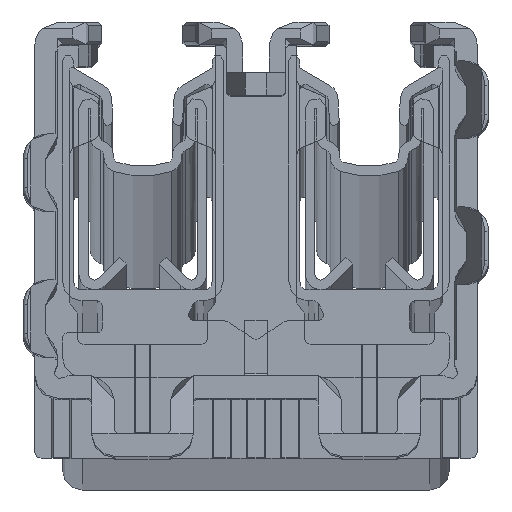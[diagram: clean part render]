
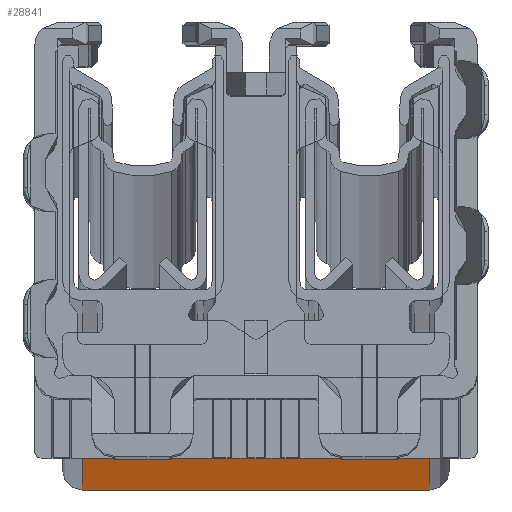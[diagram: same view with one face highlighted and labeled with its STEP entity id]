
A CAD part, top view. The second image highlights one B-rep face of the part: STEP entity #28841.
In plain terms, the highlighted planar face has unit normal (0, -1, 0).
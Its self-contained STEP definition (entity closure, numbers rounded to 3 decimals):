
#2731 = EDGE_LOOP ( 'NONE', ( #23556, #24323, #24406, #23604, #23486, #23039, #23905, #23903, #23488, #24549, #23836, #23480 ) ) ;
#3558 = VECTOR ( 'NONE', #17658, 1000. ) ;
#3579 = VECTOR ( 'NONE', #17662, 1000. ) ;
#3582 = LINE ( 'NONE', #17666, #4013 ) ;
#3586 = LINE ( 'NONE', #17665, #4106 ) ;
#3594 = LINE ( 'NONE', #17663, #3819 ) ;
#3598 = VECTOR ( 'NONE', #17668, 1000. ) ;
#3602 = VECTOR ( 'NONE', #17660, 1000. ) ;
#3610 = LINE ( 'NONE', #17659, #3598 ) ;
#3639 = LINE ( 'NONE', #17677, #4006 ) ;
#3766 = LINE ( 'NONE', #17672, #4015 ) ;
#3819 = VECTOR ( 'NONE', #17664, 1000. ) ;
#3834 = LINE ( 'NONE', #17652, #3558 ) ;
#3844 = LINE ( 'NONE', #17657, #3579 ) ;
#3863 = LINE ( 'NONE', #17655, #3602 ) ;
#4004 = LINE ( 'NONE', #17669, #4019 ) ;
#4006 = VECTOR ( 'NONE', #17678, 1000. ) ;
#4008 = VECTOR ( 'NONE', #17671, 1000. ) ;
#4013 = VECTOR ( 'NONE', #17674, 1000. ) ;
#4015 = VECTOR ( 'NONE', #17673, 1000. ) ;
#4019 = VECTOR ( 'NONE', #17670, 1000. ) ;
#4045 = LINE ( 'NONE', #17661, #4008 ) ;
#4106 = VECTOR ( 'NONE', #17667, 1000. ) ;
#4125 = VECTOR ( 'NONE', #17760, 1000. ) ;
#4128 = LINE ( 'NONE', #17759, #4125 ) ;
#7863 = EDGE_CURVE ( 'NONE', #23222, #23103, #3834, .T. ) ;
#7864 = EDGE_CURVE ( 'NONE', #23914, #23103, #3863, .T. ) ;
#7865 = EDGE_CURVE ( 'NONE', #23914, #23911, #3844, .T. ) ;
#7866 = EDGE_CURVE ( 'NONE', #23911, #23220, #3594, .T. ) ;
#7867 = EDGE_CURVE ( 'NONE', #23220, #23916, #3586, .T. ) ;
#7868 = EDGE_CURVE ( 'NONE', #23218, #23916, #3610, .T. ) ;
#7869 = EDGE_CURVE ( 'NONE', #23218, #23948, #4004, .T. ) ;
#7870 = EDGE_CURVE ( 'NONE', #23948, #23946, #4045, .T. ) ;
#7871 = EDGE_CURVE ( 'NONE', #23946, #24431, #3766, .T. ) ;
#7872 = EDGE_CURVE ( 'NONE', #23942, #24431, #3582, .T. ) ;
#7876 = EDGE_CURVE ( 'NONE', #23953, #23942, #3639, .T. ) ;
#7909 = EDGE_CURVE ( 'NONE', #23953, #23222, #4128, .T. ) ;
#15179 = AXIS2_PLACEMENT_3D ( 'NONE', #24958, #24960, #24962 ) ;
#16835 = FACE_OUTER_BOUND ( 'NONE', #2731, .T. ) ;
#17652 = CARTESIAN_POINT ( 'NONE',  ( -10.725, 0., -2000. ) ) ;
#17655 = CARTESIAN_POINT ( 'NONE',  ( -11.704, 0., 1955.7 ) ) ;
#17657 = CARTESIAN_POINT ( 'NONE',  ( -10.25, 0., 1955.7 ) ) ;
#17658 = DIRECTION ( 'NONE',  ( 0., 0., 1. ) ) ;
#17659 = CARTESIAN_POINT ( 'NONE',  ( 5.25, 0., 1955.7 ) ) ;
#17660 = DIRECTION ( 'NONE',  ( -1., 0., 0. ) ) ;
#17661 = CARTESIAN_POINT ( 'NONE',  ( 0., 0., 1992.5 ) ) ;
#17662 = DIRECTION ( 'NONE',  ( 0., 0., 1. ) ) ;
#17663 = CARTESIAN_POINT ( 'NONE',  ( 0., 0., 1992.5 ) ) ;
#17664 = DIRECTION ( 'NONE',  ( 1., 0., 0. ) ) ;
#17665 = CARTESIAN_POINT ( 'NONE',  ( -3.75, 0., 1955.7 ) ) ;
#17666 = CARTESIAN_POINT ( 'NONE',  ( 11.704, 0., 1955.7 ) ) ;
#17667 = DIRECTION ( 'NONE',  ( 0., 0., -1. ) ) ;
#17668 = DIRECTION ( 'NONE',  ( -1., 0., 0. ) ) ;
#17669 = CARTESIAN_POINT ( 'NONE',  ( 3.75, 0., 1955.7 ) ) ;
#17670 = DIRECTION ( 'NONE',  ( 0., 0., 1. ) ) ;
#17671 = DIRECTION ( 'NONE',  ( 1., 0., 0. ) ) ;
#17672 = CARTESIAN_POINT ( 'NONE',  ( 10.25, 0., 1955.7 ) ) ;
#17673 = DIRECTION ( 'NONE',  ( 0., 0., -1. ) ) ;
#17674 = DIRECTION ( 'NONE',  ( -1., 0., 0. ) ) ;
#17677 = CARTESIAN_POINT ( 'NONE',  ( 10.725, 0., -2000. ) ) ;
#17678 = DIRECTION ( 'NONE',  ( 0., 0., 1. ) ) ;
#17759 = CARTESIAN_POINT ( 'NONE',  ( 0., 0., -1992.5 ) ) ;
#17760 = DIRECTION ( 'NONE',  ( -1., 0., 0. ) ) ;
#23039 = ORIENTED_EDGE ( 'NONE', *, *, #7867, .F. ) ;
#23103 = VERTEX_POINT ( 'NONE', #23611 ) ;
#23218 = VERTEX_POINT ( 'NONE', #23631 ) ;
#23220 = VERTEX_POINT ( 'NONE', #23633 ) ;
#23222 = VERTEX_POINT ( 'NONE', #23627 ) ;
#23480 = ORIENTED_EDGE ( 'NONE', *, *, #7876, .T. ) ;
#23486 = ORIENTED_EDGE ( 'NONE', *, *, #7868, .T. ) ;
#23488 = ORIENTED_EDGE ( 'NONE', *, *, #7864, .T. ) ;
#23556 = ORIENTED_EDGE ( 'NONE', *, *, #7872, .T. ) ;
#23604 = ORIENTED_EDGE ( 'NONE', *, *, #7869, .F. ) ;
#23611 = CARTESIAN_POINT ( 'NONE',  ( -10.725, 0., 1955.7 ) ) ;
#23627 = CARTESIAN_POINT ( 'NONE',  ( -10.725, 0., -1992.5 ) ) ;
#23631 = CARTESIAN_POINT ( 'NONE',  ( 3.75, 0., 1955.7 ) ) ;
#23633 = CARTESIAN_POINT ( 'NONE',  ( -3.75, 0., 1992.5 ) ) ;
#23776 = CARTESIAN_POINT ( 'NONE',  ( -10.25, 0., 1992.5 ) ) ;
#23778 = CARTESIAN_POINT ( 'NONE',  ( -10.25, 0., 1955.7 ) ) ;
#23780 = CARTESIAN_POINT ( 'NONE',  ( -3.75, 0., 1955.7 ) ) ;
#23787 = CARTESIAN_POINT ( 'NONE',  ( 10.25, 0., 1992.5 ) ) ;
#23795 = CARTESIAN_POINT ( 'NONE',  ( 10.725, 0., 1955.7 ) ) ;
#23798 = CARTESIAN_POINT ( 'NONE',  ( 3.75, 0., 1992.5 ) ) ;
#23800 = CARTESIAN_POINT ( 'NONE',  ( 10.725, 0., -1992.5 ) ) ;
#23836 = ORIENTED_EDGE ( 'NONE', *, *, #7909, .F. ) ;
#23903 = ORIENTED_EDGE ( 'NONE', *, *, #7865, .F. ) ;
#23905 = ORIENTED_EDGE ( 'NONE', *, *, #7866, .F. ) ;
#23911 = VERTEX_POINT ( 'NONE', #23776 ) ;
#23914 = VERTEX_POINT ( 'NONE', #23778 ) ;
#23916 = VERTEX_POINT ( 'NONE', #23780 ) ;
#23930 = CARTESIAN_POINT ( 'NONE',  ( 10.25, 0., 1955.7 ) ) ;
#23942 = VERTEX_POINT ( 'NONE', #23795 ) ;
#23946 = VERTEX_POINT ( 'NONE', #23787 ) ;
#23948 = VERTEX_POINT ( 'NONE', #23798 ) ;
#23953 = VERTEX_POINT ( 'NONE', #23800 ) ;
#24323 = ORIENTED_EDGE ( 'NONE', *, *, #7871, .F. ) ;
#24406 = ORIENTED_EDGE ( 'NONE', *, *, #7870, .F. ) ;
#24431 = VERTEX_POINT ( 'NONE', #23930 ) ;
#24549 = ORIENTED_EDGE ( 'NONE', *, *, #7863, .F. ) ;
#24923 = PLANE ( 'NONE',  #15179 ) ;
#24958 = CARTESIAN_POINT ( 'NONE',  ( -10.725, 0., -2000. ) ) ;
#24960 = DIRECTION ( 'NONE',  ( 0., -1., 0. ) ) ;
#24962 = DIRECTION ( 'NONE',  ( 1., 0., 0. ) ) ;
#28841 = ADVANCED_FACE ( 'NONE', ( #16835 ), #24923, .T. ) ;
